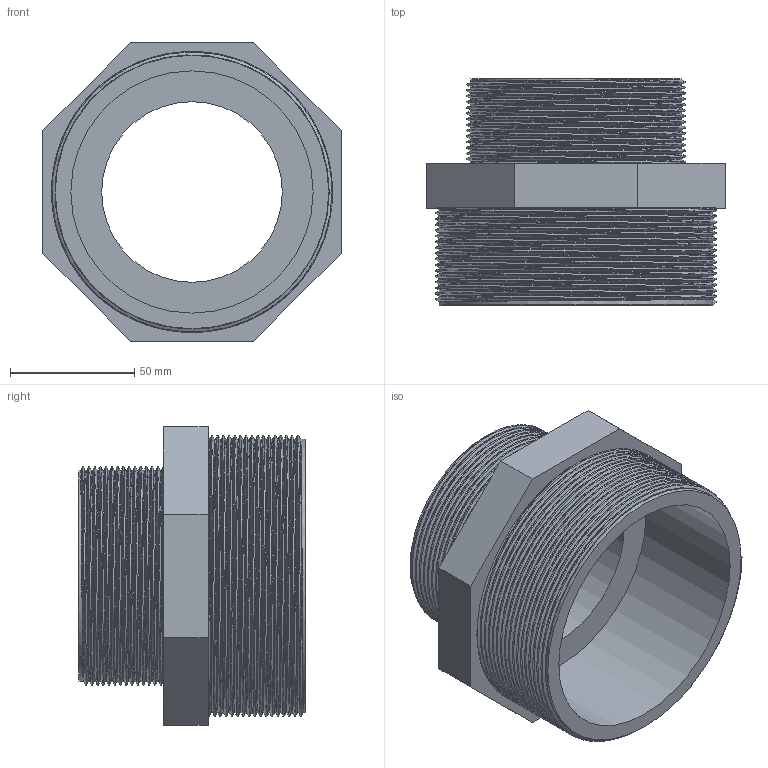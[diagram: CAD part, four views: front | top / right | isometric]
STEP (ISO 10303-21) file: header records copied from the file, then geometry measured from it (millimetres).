
FILE_DESCRIPTION(/* description */ ('PVC nipplo ridotto filettato BSP'),/* implementation_level */ '2;1');
FILE_NAME(/* name */ 'C:\Users\POLYPIPE\Desktop\DATASET INVENTOR\LIBRERIA EFFAST\RACCORDI 3DxWEB\RER\3D_RERNRE\3D_RERNRE110I.stp',/* time_stamp */ '2018-01-19T16:47:22+01:00',/* author */ ('POLYPIPE'),/* organization */ ('Polypipe Italia s.r.l.'),/* preprocessor_version */ 'ST-DEVELOPER v16.1',/* originating_system */ 'Autodesk Inventor 2016',/* authorisation */ '');
FILE_SCHEMA (('CONFIG_CONTROL_DESIGN'));
Length unit declared in the file: millimetre
Products named in the file (1): 3D_RERNRE
Bounding box: 120 x 91 x 120 mm (x, y, z)
Volume: 257744.5 mm3; surface area: 85426.3 mm2
Topology: 1 solids, 1 shells, 29 faces, 66 edges, 42 vertices
Faces by surface type: plane 15, bspline 10, cylinder 4
Full cylindrical faces by diameter (mm): 72.7 x1, 84.926 x1, 97.5 x1, 110.072 x1
Entity records: 13077 total; most frequent: CARTESIAN_POINT 12465, ORIENTED_EDGE 128, DIRECTION 94, EDGE_CURVE 64, VERTEX_POINT 42, EDGE_LOOP 36, AXIS2_PLACEMENT_3D 32, LINE 30
